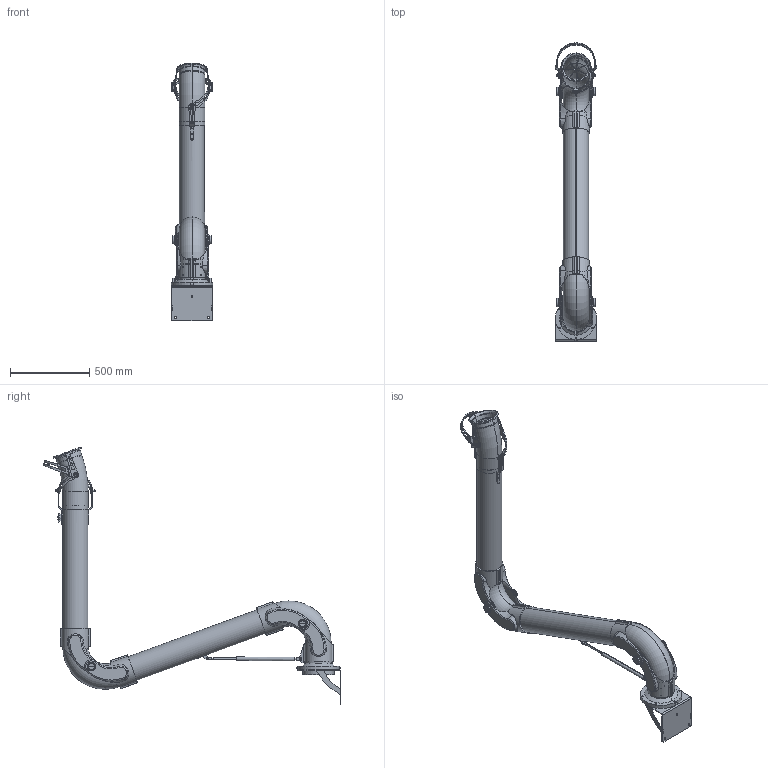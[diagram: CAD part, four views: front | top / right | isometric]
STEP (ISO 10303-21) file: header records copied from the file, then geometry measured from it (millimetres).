
FILE_DESCRIPTION((''),'2;1');
FILE_NAME('124974','2019-03-11T09:04:52',('Gustav Stenberg'),(''),'CREO PARAMETRIC BY PTC INC, 2018260','CREO PARAMETRIC BY PTC INC, 2018260','');
FILE_SCHEMA(('AUTOMOTIVE_DESIGN { 1 0 10303 214 1 1 1 1 }'));
Length unit declared in the file: millimetre
Products named in the file (43): LIGHT_SWIVEL_160_AF0; 126194; G_PRX_SVIVEL_SPRINGMOUNT; 138752; 124030; 124031; 105-5481_1; 101156_1; 124035_AF0; 124035_AF1; 124035_AF2; 124035_AF3; 124884; 124893; 124866; 125076; 124874; 124950; 126055_AF0; 124963_AF0; 142700; 142473; 199-808-160; 142440; 142441; 142491; 142858; 128231; 126056_AF0; 143145; 143004; 100-5835; 142481; 126055_AF1; 129694; G_GAS_SPRING_FORK_MOUNT; 126093; GAS_SPRING_ROD_BANSBACH; 102811-REF; 124366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
Assembly tree (61 placements, depth 5):
  124974
    138752
      126194
        LIGHT_SWIVEL_160_AF0
      G_PRX_SVIVEL_SPRINGMOUNT
    124035_AF0
      124030
      124031
      101156_1
        105-5481_1
    124035_AF1
      124030
      124031
      101156_1
        105-5481_1
    124963_AF0
      124035_AF2
        124030
        124031
        101156_1
          105-5481_1
      124035_AF3
        124030
        124031
        101156_1
          105-5481_1
      124884
      124950
        124893
        124874
          124866
          125076
      126055_AF0
    142481
      142700  x2
      142473  x2
      142858
        199-808-160
        142440
        142441
        142491
      128231
      126056_AF0
      143145  x4
      143004  x4
      100-5835
    126055_AF1
    126093
      129694
      G_GAS_SPRING_FORK_MOUNT
    102811-REF
      GAS_SPRING_ROD_BANSBACH
      G_GAS_SPRING_FORK_MOUNT
    124365
      124366
      123045  x2
Bounding box: 260.22 x 1874.28 x 1622.22 mm (x, y, z)
Volume: 11851264.9 mm3; surface area: 4756528.8 mm2
Topology: 46 solids, 46 shells, 1170 faces, 2916 edges, 1895 vertices
Faces by surface type: plane 469, cylinder 429, cone 112, bspline 94, torus 42, sphere 24
Entity records: 36586 total; most frequent: CARTESIAN_POINT 10078, DIRECTION 4097, ORIENTED_EDGE 3738, EDGE_CURVE 1869, AXIS2_PLACEMENT_3D 1564, PRESENTATION_STYLE_ASSIGNMENT 1451, STYLED_ITEM 1451, VERTEX_POINT 1167
